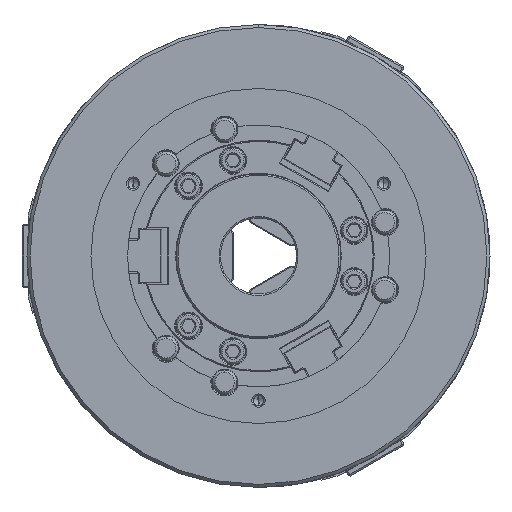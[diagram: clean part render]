
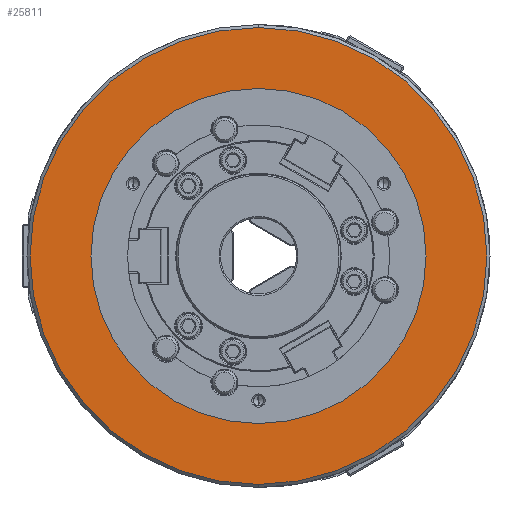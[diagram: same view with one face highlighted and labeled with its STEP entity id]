
A CAD part, left-side view. The second image highlights one B-rep face of the part: STEP entity #25811.
In plain terms, the highlighted planar face has unit normal (-1, 0, 0).
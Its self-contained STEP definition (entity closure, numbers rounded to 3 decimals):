
#2393 = EDGE_CURVE ( 'NONE', #40786, #58047, #11006, .T. ) ;
#3675 = DIRECTION ( 'NONE',  ( 0., 0., 1. ) ) ;
#5342 = CARTESIAN_POINT ( 'NONE',  ( -110., 0., 110. ) ) ;
#7831 = CIRCLE ( 'NONE', #57432, 150. ) ;
#8155 = CARTESIAN_POINT ( 'NONE',  ( -110., 0., 0. ) ) ;
#8477 = ORIENTED_EDGE ( 'NONE', *, *, #26212, .F. ) ;
#10487 = DIRECTION ( 'NONE',  ( -1., 0., 0. ) ) ;
#11006 = CIRCLE ( 'NONE', #41570, 110. ) ;
#11921 = AXIS2_PLACEMENT_3D ( 'NONE', #57537, #10487, #3675 ) ;
#12110 = CARTESIAN_POINT ( 'NONE',  ( -110., 0., -150. ) ) ;
#13707 = DIRECTION ( 'NONE',  ( 0., 0., 1. ) ) ;
#14408 = CIRCLE ( 'NONE', #11921, 150. ) ;
#20693 = ORIENTED_EDGE ( 'NONE', *, *, #54569, .T. ) ;
#21718 = FACE_BOUND ( 'NONE', #40507, .T. ) ;
#22077 = CIRCLE ( 'NONE', #66670, 110. ) ;
#25772 = VERTEX_POINT ( 'NONE', #43670 ) ;
#25811 = ADVANCED_FACE ( 'NONE', ( #21718, #28884 ), #70767, .F. ) ;
#26212 = EDGE_CURVE ( 'NONE', #58047, #40786, #22077, .T. ) ;
#28373 = ORIENTED_EDGE ( 'NONE', *, *, #70282, .T. ) ;
#28884 = FACE_OUTER_BOUND ( 'NONE', #44515, .T. ) ;
#33969 = DIRECTION ( 'NONE',  ( -1., 0., 0. ) ) ;
#34367 = DIRECTION ( 'NONE',  ( 0., 0., 1. ) ) ;
#36825 = DIRECTION ( 'NONE',  ( -1., 0., 0. ) ) ;
#37065 = ORIENTED_EDGE ( 'NONE', *, *, #2393, .F. ) ;
#40433 = DIRECTION ( 'NONE',  ( 1., 0., 0. ) ) ;
#40507 = EDGE_LOOP ( 'NONE', ( #8477, #37065 ) ) ;
#40786 = VERTEX_POINT ( 'NONE', #48186 ) ;
#41570 = AXIS2_PLACEMENT_3D ( 'NONE', #8155, #69155, #13707 ) ;
#43670 = CARTESIAN_POINT ( 'NONE',  ( -110., 0., 150. ) ) ;
#44515 = EDGE_LOOP ( 'NONE', ( #28373, #20693 ) ) ;
#48186 = CARTESIAN_POINT ( 'NONE',  ( -110., 0., -110. ) ) ;
#53170 = CARTESIAN_POINT ( 'NONE',  ( -110., 150., 0. ) ) ;
#54569 = EDGE_CURVE ( 'NONE', #25772, #65600, #7831, .T. ) ;
#55135 = AXIS2_PLACEMENT_3D ( 'NONE', #53170, #40433, #65583 ) ;
#55144 = CARTESIAN_POINT ( 'NONE',  ( -110., 0., 0. ) ) ;
#57432 = AXIS2_PLACEMENT_3D ( 'NONE', #55144, #36825, #61145 ) ;
#57514 = CARTESIAN_POINT ( 'NONE',  ( -110., 0., 0. ) ) ;
#57537 = CARTESIAN_POINT ( 'NONE',  ( -110., 0., 0. ) ) ;
#58047 = VERTEX_POINT ( 'NONE', #5342 ) ;
#61145 = DIRECTION ( 'NONE',  ( 0., 0., 1. ) ) ;
#65583 = DIRECTION ( 'NONE',  ( 0., 0., -1. ) ) ;
#65600 = VERTEX_POINT ( 'NONE', #12110 ) ;
#66670 = AXIS2_PLACEMENT_3D ( 'NONE', #57514, #33969, #34367 ) ;
#69155 = DIRECTION ( 'NONE',  ( -1., 0., 0. ) ) ;
#70282 = EDGE_CURVE ( 'NONE', #65600, #25772, #14408, .T. ) ;
#70767 = PLANE ( 'NONE',  #55135 ) ;
